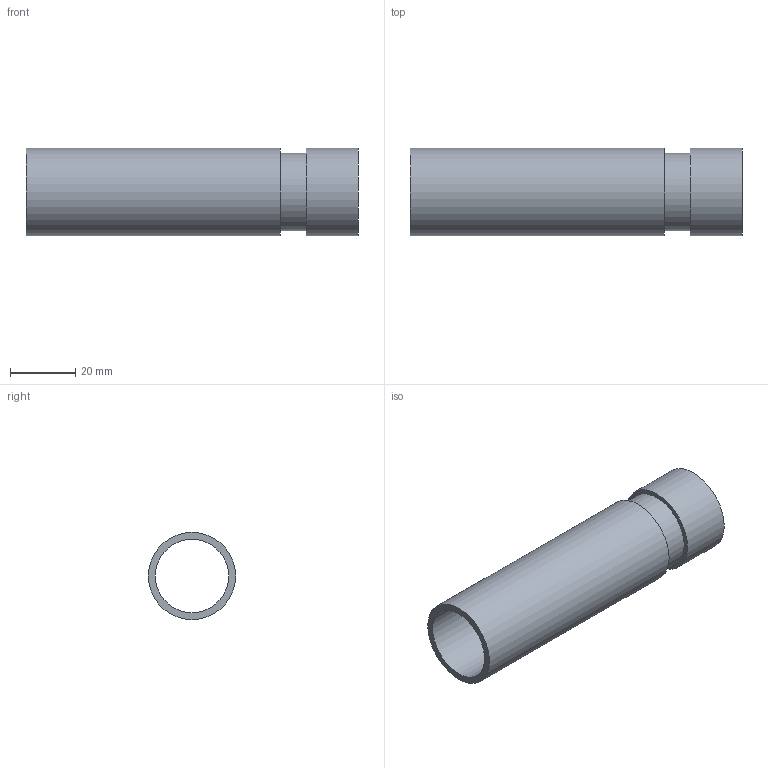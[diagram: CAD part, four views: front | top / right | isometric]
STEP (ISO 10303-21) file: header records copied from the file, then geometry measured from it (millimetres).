
FILE_DESCRIPTION(/* description */ ('VIC TRANSITION NIPPLE STYLE P577 (G X T)','CAx-IF Rec.Pracs.---Representation and Presentation of Product Manufacturing Information (PMI)---4.0---2014-10-13'),/* implementation_level */ '2;1');
FILE_NAME(/* name */ 'C:\Users\kkamble\AppData\Roaming\Autodesk\ApplicationPlugins\Back Up\Victaulic_SS-Vic-Press-TP 316_Nipple Transition_Style P577 (VPxPE)\Victaulic_SS-Vic-Press-TP 316_Nipple Transition_Style P577 (VPxPE)_0.75 (20).stp',/* time_stamp */ '2020-08-14T14:08:21+06:00',/* author */ ('cgray'),/* organization */ ('Victaulic'),/* preprocessor_version */ 'ST-DEVELOPER v17.2',/* originating_system */ 'Autodesk Inventor 2019',/* authorisation */ '');
FILE_SCHEMA (('AP242_MANAGED_MODEL_BASED_3D_ENGINEERING_MIM_LF { 1 0 10303 442 1 1 4 }'));
Length unit declared in the file: inch
Products named in the file (1): P577-0.75
Bounding box: 101.6 x 26.67 x 26.67 mm (x, y, z)
Volume: 15630.9 mm3; surface area: 16159.5 mm2
Topology: 1 solids, 1 shells, 8 faces, 20 edges, 16 vertices
Faces by surface type: cylinder 4, plane 4
Full cylindrical faces by diameter (mm): 22.454 x1, 23.825 x1, 26.67 x2
Entity records: 408 total; most frequent: DIRECTION 80, CARTESIAN_POINT 62, ORIENTED_EDGE 40, AXIS2_PLACEMENT_3D 38, EDGE_CURVE 20, CIRCLE 16, VERTEX_POINT 16, EDGE_LOOP 12
